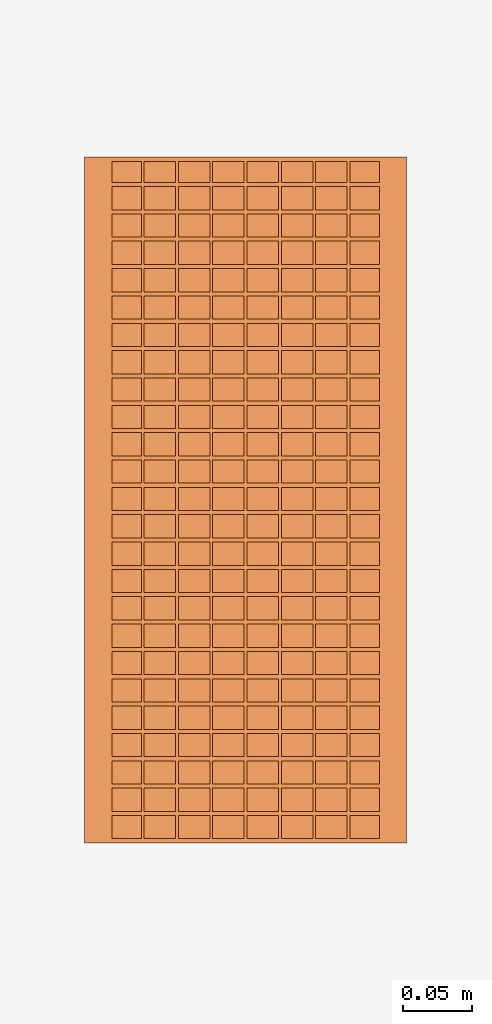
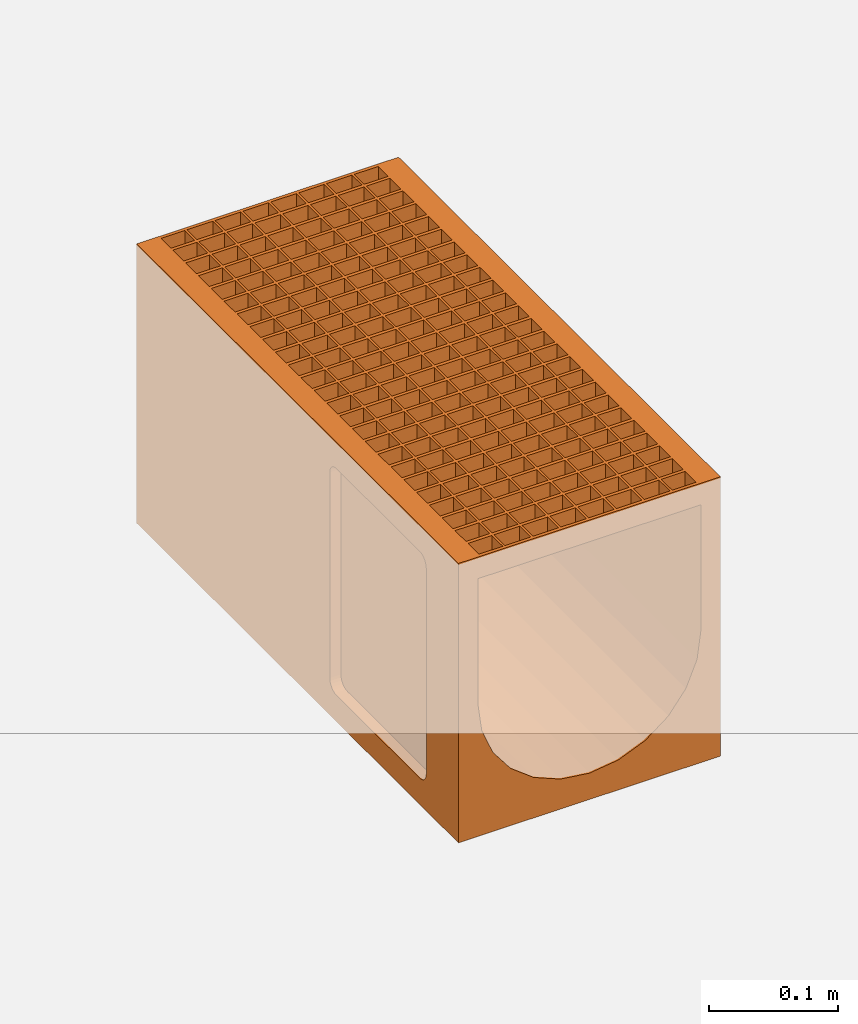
# One storey, part 2 of 2: 1 proxy.
"""IFC2X3 building model written with IfcOpenShell, lengths in millimetres."""

from ifc_helpers import new_model, entity, si_unit, converted_unit, direction, frame, origin, place, context, subcontext, project, spatial, faceted_brep, source, transform, mapped, material, material_list, element, save


model = new_model("IFC2X3")

# Units and contexts
model_context = context("Model", 3, precision=1e-06, world=origin(), true_north=direction((2.0, 6.12303176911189e-17, 1.0)))
context_of_model = context(None, 3, precision=1e-06, world=origin(), true_north=direction((2.0, 6.12303176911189e-17, 1.0)))
body_context = subcontext(model_context, "Body", "Model", "MODEL_VIEW")
ifc_project = project(units=[si_unit("LENGTHUNIT", "METRE", prefix="MILLI"), si_unit("AREAUNIT", "SQUARE_METRE", prefix="MILLI"), si_unit("VOLUMEUNIT", "CUBIC_METRE", prefix="MILLI"), converted_unit("PLANEANGLEUNIT", "DEGREE", entity("IfcRatioMeasure", 0.0174532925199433), si_unit("PLANEANGLEUNIT", "RADIAN"), dimensions=[0, 0, 0, 0, 0, 0, 0]), si_unit("TIMEUNIT", "SECOND")], contexts=[model_context, context_of_model])

# Site, building, storey
site_placement = place(None, origin())
site = spatial("IfcSite", under=ifc_project, at=site_placement, Name="Default", CompositionType="ELEMENT")
building_placement = place(site_placement, origin())
building = spatial("IfcBuilding", under=site, at=building_placement, CompositionType="ELEMENT")
storey_placement = place(building_placement, origin())
storey = spatial("IfcBuildingStorey", under=building, at=storey_placement, Name="Level 1", CompositionType="ELEMENT", Elevation=0.0)

# Proxy
ifc_material = material(Name="Vienite® Synthetic Resin Concrete")
ifc_material_list = material_list([ifc_material])
shared_shape = source(origin(), body_context, "Body", "Brep", [
    faceted_brep([(-97.5000000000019, 497.0, 0.0), (97.4999999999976, 497.0, 0.0), (97.4999999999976, 500.0, 0.0), (-97.5000000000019, 500.0, 0.0), (-97.5000000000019, 500.0, -20.5000000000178), (97.4999999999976, 500.0, -20.5000000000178), (97.4999999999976, 497.0, -20.5000000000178), (-97.5000000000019, 497.0, -20.5000000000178)], [[[0, 1, 2, 3]], [[4, 5, 6, 7]], [[2, 1, 6, 5]], [[4, 3, 2, 5]], [[0, 3, 4, 7]], [[6, 1, 0, 7]]]),
    faceted_brep([(-97.5000000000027, 3.0, -20.5000000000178), (97.4999999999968, 3.0, -20.5000000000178), (97.4999999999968, 0.0, -20.5000000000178), (-97.5000000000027, 0.0, -20.5000000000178), (-97.5000000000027, 0.0, 0.0), (97.4999999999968, 0.0, 0.0), (97.4999999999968, 3.0, 0.0), (-97.5000000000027, 3.0, 0.0)], [[[0, 1, 2, 3]], [[4, 5, 6, 7]], [[6, 5, 2, 1]], [[3, 4, 7, 0]], [[2, 5, 4, 3]], [[0, 7, 6, 1]]]),
    faceted_brep([(-97.5000000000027, 19.9400000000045, 0.0), (97.4999999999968, 19.9400000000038, 0.0), (97.4999999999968, 22.9400000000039, 0.0), (-97.5000000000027, 22.9400000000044, 0.0), (-97.5000000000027, 22.9400000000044, -20.5000000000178), (97.4999999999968, 22.9400000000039, -20.5000000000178), (97.4999999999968, 19.9400000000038, -20.5000000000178), (-97.5000000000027, 19.9400000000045, -20.5000000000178)], [[[0, 1, 2, 3]], [[4, 5, 6, 7]], [[2, 1, 6, 5]], [[4, 3, 2, 5]], [[7, 0, 3, 4]], [[6, 1, 0, 7]]]),
    faceted_brep([(-97.5000000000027, 42.8800000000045, -20.5000000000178), (97.4999999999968, 42.8800000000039, -20.5000000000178), (97.4999999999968, 39.8800000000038, -20.5000000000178), (-97.5000000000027, 39.8800000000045, -20.5000000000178), (-97.5000000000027, 39.8800000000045, 0.0), (97.4999999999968, 39.8800000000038, 0.0), (97.4999999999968, 42.8800000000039, 0.0), (-97.5000000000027, 42.8800000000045, 0.0)], [[[0, 1, 2, 3]], [[4, 5, 6, 7]], [[6, 5, 2, 1]], [[0, 7, 6, 1]], [[3, 4, 7, 0]], [[2, 5, 4, 3]]]),
    faceted_brep([(-97.5000000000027, 59.8200000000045, 0.0), (97.4999999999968, 59.8200000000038, 0.0), (97.4999999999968, 62.8200000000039, 0.0), (-97.5000000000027, 62.8200000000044, 0.0), (-97.5000000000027, 62.8200000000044, -20.5000000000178), (97.4999999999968, 62.8200000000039, -20.5000000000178), (97.4999999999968, 59.8200000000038, -20.5000000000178), (-97.5000000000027, 59.8200000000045, -20.5000000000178)], [[[0, 1, 2, 3]], [[4, 5, 6, 7]], [[2, 1, 6, 5]], [[4, 3, 2, 5]], [[7, 0, 3, 4]], [[6, 1, 0, 7]]]),
    faceted_brep([(-97.5000000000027, 79.7600000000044, -20.5000000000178), (-97.5000000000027, 82.7600000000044, -20.5000000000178), (97.4999999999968, 82.7600000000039, -20.5000000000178), (97.4999999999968, 79.7600000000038, -20.5000000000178), (-97.5000000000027, 79.7600000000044, 0.0), (97.4999999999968, 79.7600000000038, 0.0), (97.4999999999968, 82.7600000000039, 0.0), (-97.5000000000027, 82.7600000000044, 0.0)], [[[0, 1, 2, 3]], [[4, 5, 6, 7]], [[6, 5, 3, 2]], [[1, 7, 6, 2]], [[4, 7, 1, 0]], [[3, 5, 4, 0]]]),
    faceted_brep([(-97.5000000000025, 99.7000000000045, 0.0), (97.4999999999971, 99.7000000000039, 0.0), (97.4999999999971, 102.700000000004, 0.0), (-97.5000000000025, 102.700000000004, 0.0), (-97.5000000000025, 99.7000000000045, -20.5000000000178), (-97.5000000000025, 102.700000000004, -20.5000000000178), (97.4999999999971, 102.700000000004, -20.5000000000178), (97.4999999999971, 99.7000000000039, -20.5000000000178)], [[[0, 1, 2, 3]], [[4, 5, 6, 7]], [[2, 1, 7, 6]], [[5, 3, 2, 6]], [[0, 3, 5, 4]], [[7, 1, 0, 4]]]),
    faceted_brep([(-97.5000000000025, 119.640000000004, 0.0), (97.4999999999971, 119.640000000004, 0.0), (97.4999999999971, 122.640000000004, 0.0), (-97.5000000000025, 122.640000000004, 0.0), (-97.5000000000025, 119.640000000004, -20.5000000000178), (-97.5000000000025, 122.640000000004, -20.5000000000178), (97.4999999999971, 122.640000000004, -20.5000000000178), (97.4999999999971, 119.640000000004, -20.5000000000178)], [[[0, 1, 2, 3]], [[4, 5, 6, 7]], [[2, 1, 7, 6]], [[5, 3, 2, 6]], [[0, 3, 5, 4]], [[7, 1, 0, 4]]]),
    faceted_brep([(-97.5000000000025, 139.580000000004, -20.5000000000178), (-97.5000000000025, 142.580000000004, -20.5000000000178), (97.4999999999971, 142.580000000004, -20.5000000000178), (97.4999999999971, 139.580000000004, -20.5000000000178), (-97.5000000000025, 139.580000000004, 0.0), (97.4999999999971, 139.580000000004, 0.0), (97.4999999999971, 142.580000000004, 0.0), (-97.5000000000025, 142.580000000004, 0.0)], [[[0, 1, 2, 3]], [[4, 5, 6, 7]], [[6, 5, 3, 2]], [[1, 7, 6, 2]], [[4, 7, 1, 0]], [[3, 5, 4, 0]]]),
    faceted_brep([(-97.5000000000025, 159.520000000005, 0.0), (97.4999999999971, 159.520000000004, 0.0), (97.4999999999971, 162.520000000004, 0.0), (-97.5000000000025, 162.520000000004, 0.0), (-97.5000000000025, 159.520000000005, -20.5000000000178), (-97.5000000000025, 162.520000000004, -20.5000000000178), (97.4999999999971, 162.520000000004, -20.5000000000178), (97.4999999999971, 159.520000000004, -20.5000000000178)], [[[0, 1, 2, 3]], [[4, 5, 6, 7]], [[6, 2, 1, 7]], [[5, 3, 2, 6]], [[0, 3, 5, 4]], [[7, 1, 0, 4]]]),
    faceted_brep([(-97.5000000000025, 179.460000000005, 0.0), (97.4999999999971, 179.460000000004, 0.0), (97.4999999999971, 182.460000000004, 0.0), (-97.5000000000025, 182.460000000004, 0.0), (-97.5000000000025, 179.460000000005, -20.5000000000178), (-97.5000000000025, 182.460000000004, -20.5000000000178), (97.4999999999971, 182.460000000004, -20.5000000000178), (97.4999999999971, 179.460000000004, -20.5000000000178)], [[[0, 1, 2, 3]], [[4, 5, 6, 7]], [[6, 2, 1, 7]], [[5, 3, 2, 6]], [[0, 3, 5, 4]], [[7, 1, 0, 4]]]),
    faceted_brep([(-97.5000000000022, 199.400000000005, -20.5000000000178), (-97.5000000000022, 202.400000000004, -20.5000000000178), (97.4999999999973, 202.400000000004, -20.5000000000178), (97.4999999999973, 199.400000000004, -20.5000000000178), (-97.5000000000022, 199.400000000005, 0.0), (97.4999999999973, 199.400000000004, 0.0), (97.4999999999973, 202.400000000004, 0.0), (-97.5000000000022, 202.400000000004, 0.0)], [[[0, 1, 2, 3]], [[4, 5, 6, 7]], [[2, 6, 5, 3]], [[1, 7, 6, 2]], [[4, 7, 1, 0]], [[3, 5, 4, 0]]]),
    faceted_brep([(-97.5000000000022, 219.340000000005, -20.5000000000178), (-97.5000000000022, 222.340000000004, -20.5000000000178), (97.4999999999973, 222.340000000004, -20.5000000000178), (97.4999999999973, 219.340000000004, -20.5000000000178), (-97.5000000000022, 219.340000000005, 0.0), (97.4999999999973, 219.340000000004, 0.0), (97.4999999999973, 222.340000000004, 0.0), (-97.5000000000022, 222.340000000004, 0.0)], [[[0, 1, 2, 3]], [[4, 5, 6, 7]], [[2, 6, 5, 3]], [[1, 7, 6, 2]], [[4, 7, 1, 0]], [[3, 5, 4, 0]]]),
    faceted_brep([(-97.5000000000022, 239.280000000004, -20.5000000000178), (-97.5000000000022, 242.280000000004, -20.5000000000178), (97.4999999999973, 242.280000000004, -20.5000000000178), (97.4999999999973, 239.280000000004, -20.5000000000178), (-97.5000000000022, 239.280000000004, 0.0), (97.4999999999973, 239.280000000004, 0.0), (97.4999999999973, 242.280000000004, 0.0), (-97.5000000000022, 242.280000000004, 0.0)], [[[0, 1, 2, 3]], [[4, 5, 6, 7]], [[2, 6, 5, 3]], [[1, 7, 6, 2]], [[4, 7, 1, 0]], [[3, 5, 4, 0]]]),
    faceted_brep([(-97.5000000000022, 259.220000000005, -20.5000000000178), (-97.5000000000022, 262.220000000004, -20.5000000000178), (97.4999999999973, 262.220000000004, -20.5000000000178), (97.4999999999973, 259.220000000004, -20.5000000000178), (-97.5000000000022, 259.220000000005, 0.0), (97.4999999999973, 259.220000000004, 0.0), (97.4999999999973, 262.220000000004, 0.0), (-97.5000000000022, 262.220000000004, 0.0)], [[[0, 1, 2, 3]], [[4, 5, 6, 7]], [[2, 6, 5, 3]], [[1, 7, 6, 2]], [[4, 7, 1, 0]], [[3, 5, 4, 0]]]),
    faceted_brep([(-97.5000000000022, 279.160000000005, -20.5000000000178), (-97.5000000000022, 282.160000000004, -20.5000000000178), (97.4999999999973, 282.160000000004, -20.5000000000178), (97.4999999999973, 279.160000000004, -20.5000000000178), (-97.5000000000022, 279.160000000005, 0.0), (97.4999999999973, 279.160000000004, 0.0), (97.4999999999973, 282.160000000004, 0.0), (-97.5000000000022, 282.160000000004, 0.0)], [[[0, 1, 2, 3]], [[4, 5, 6, 7]], [[2, 6, 5, 3]], [[1, 7, 6, 2]], [[4, 7, 1, 0]], [[3, 5, 4, 0]]]),
    faceted_brep([(-97.5000000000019, 299.100000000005, -20.5000000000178), (-97.5000000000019, 302.100000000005, -20.5000000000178), (97.4999999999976, 302.100000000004, -20.5000000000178), (97.4999999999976, 299.100000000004, -20.5000000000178), (-97.5000000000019, 299.100000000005, 0.0), (97.4999999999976, 299.100000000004, 0.0), (97.4999999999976, 302.100000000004, 0.0), (-97.5000000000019, 302.100000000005, 0.0)], [[[0, 1, 2, 3]], [[4, 5, 6, 7]], [[2, 6, 5, 3]], [[1, 7, 6, 2]], [[4, 7, 1, 0]], [[3, 5, 4, 0]]]),
    faceted_brep([(-97.5000000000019, 322.040000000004, -20.5000000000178), (97.4999999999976, 322.040000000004, -20.5000000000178), (97.4999999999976, 319.040000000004, -20.5000000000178), (-97.5000000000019, 319.040000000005, -20.5000000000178), (-97.5000000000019, 319.040000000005, 0.0), (97.4999999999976, 319.040000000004, 0.0), (97.4999999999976, 322.040000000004, 0.0), (-97.5000000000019, 322.040000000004, 0.0)], [[[0, 1, 2, 3]], [[4, 5, 6, 7]], [[6, 5, 2, 1]], [[0, 7, 6, 1]], [[4, 7, 0, 3]], [[2, 5, 4, 3]]]),
    faceted_brep([(-97.5000000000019, 338.980000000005, 0.0), (97.4999999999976, 338.980000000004, 0.0), (97.4999999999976, 341.980000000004, 0.0), (-97.5000000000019, 341.980000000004, 0.0), (-97.5000000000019, 341.980000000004, -20.5000000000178), (97.4999999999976, 341.980000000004, -20.5000000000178), (97.4999999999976, 338.980000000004, -20.5000000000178), (-97.5000000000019, 338.980000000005, -20.5000000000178)], [[[0, 1, 2, 3]], [[4, 5, 6, 7]], [[2, 1, 6, 5]], [[4, 3, 2, 5]], [[0, 3, 4, 7]], [[6, 1, 0, 7]]]),
    faceted_brep([(-97.5000000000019, 358.920000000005, 0.0), (97.4999999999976, 358.920000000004, 0.0), (97.4999999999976, 361.920000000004, 0.0), (-97.5000000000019, 361.920000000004, 0.0), (-97.5000000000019, 361.920000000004, -20.5000000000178), (97.4999999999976, 361.920000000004, -20.5000000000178), (97.4999999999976, 358.920000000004, -20.5000000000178), (-97.5000000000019, 358.920000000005, -20.5000000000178)], [[[0, 1, 2, 3]], [[4, 5, 6, 7]], [[2, 1, 6, 5]], [[4, 3, 2, 5]], [[0, 3, 4, 7]], [[6, 1, 0, 7]]]),
    faceted_brep([(-97.5000000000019, 381.860000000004, -20.5000000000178), (97.4999999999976, 381.860000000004, -20.5000000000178), (97.4999999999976, 378.860000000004, -20.5000000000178), (-97.5000000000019, 378.860000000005, -20.5000000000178), (-97.5000000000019, 378.860000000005, 0.0), (97.4999999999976, 378.860000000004, 0.0), (97.4999999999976, 381.860000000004, 0.0), (-97.5000000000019, 381.860000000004, 0.0)], [[[0, 1, 2, 3]], [[4, 5, 6, 7]], [[6, 5, 2, 1]], [[0, 7, 6, 1]], [[4, 7, 0, 3]], [[2, 5, 4, 3]]]),
    faceted_brep([(-97.5000000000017, 401.800000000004, -20.5000000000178), (97.4999999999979, 401.800000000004, -20.5000000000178), (97.4999999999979, 398.800000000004, -20.5000000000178), (-97.5000000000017, 398.800000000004, -20.5000000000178), (-97.5000000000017, 398.800000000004, 0.0), (97.4999999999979, 398.800000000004, 0.0), (97.4999999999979, 401.800000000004, 0.0), (-97.5000000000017, 401.800000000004, 0.0)], [[[0, 1, 2, 3]], [[4, 5, 6, 7]], [[6, 5, 2, 1]], [[0, 7, 6, 1]], [[4, 7, 0, 3]], [[2, 5, 4, 3]]]),
    faceted_brep([(-97.5000000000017, 421.740000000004, -20.5000000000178), (97.4999999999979, 421.740000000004, -20.5000000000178), (97.4999999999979, 418.740000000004, -20.5000000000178), (-97.5000000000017, 418.740000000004, -20.5000000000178), (-97.5000000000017, 418.740000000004, 0.0), (97.4999999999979, 418.740000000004, 0.0), (97.4999999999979, 421.740000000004, 0.0), (-97.5000000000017, 421.740000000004, 0.0)], [[[0, 1, 2, 3]], [[4, 5, 6, 7]], [[6, 5, 2, 1]], [[0, 7, 6, 1]], [[4, 7, 0, 3]], [[2, 5, 4, 3]]]),
    faceted_brep([(-97.5000000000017, 441.680000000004, -20.5000000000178), (97.4999999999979, 441.680000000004, -20.5000000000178), (97.4999999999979, 438.680000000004, -20.5000000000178), (-97.5000000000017, 438.680000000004, -20.5000000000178), (-97.5000000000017, 438.680000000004, 0.0), (97.4999999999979, 438.680000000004, 0.0), (97.4999999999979, 441.680000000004, 0.0), (-97.5000000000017, 441.680000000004, 0.0)], [[[0, 1, 2, 3]], [[4, 5, 6, 7]], [[6, 5, 2, 1]], [[0, 7, 6, 1]], [[4, 7, 0, 3]], [[2, 5, 4, 3]]]),
    faceted_brep([(-97.5000000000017, 461.620000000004, -20.5000000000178), (97.4999999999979, 461.620000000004, -20.5000000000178), (97.4999999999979, 458.620000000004, -20.5000000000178), (-97.5000000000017, 458.620000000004, -20.5000000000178), (-97.5000000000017, 458.620000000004, 0.0), (97.4999999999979, 458.620000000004, 0.0), (97.4999999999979, 461.620000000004, 0.0), (-97.5000000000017, 461.620000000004, 0.0)], [[[0, 1, 2, 3]], [[4, 5, 6, 7]], [[6, 5, 2, 1]], [[0, 7, 6, 1]], [[4, 7, 0, 3]], [[2, 5, 4, 3]]]),
    faceted_brep([(-97.5000000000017, 481.560000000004, -20.5000000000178), (97.4999999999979, 481.560000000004, -20.5000000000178), (97.4999999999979, 478.560000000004, -20.5000000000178), (-97.5000000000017, 478.560000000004, -20.5000000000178), (-97.5000000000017, 478.560000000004, 0.0), (97.4999999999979, 478.560000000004, 0.0), (97.4999999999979, 481.560000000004, 0.0), (-97.5000000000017, 481.560000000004, 0.0)], [[[0, 1, 2, 3]], [[4, 5, 6, 7]], [[6, 5, 2, 1]], [[0, 7, 6, 1]], [[4, 7, 0, 3]], [[2, 5, 4, 3]]]),
    faceted_brep([(97.4999999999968, 0.0, 0.0), (97.4999999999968, 0.0, -20.5000000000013), (113.249999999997, 0.0, -20.5000000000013), (113.249999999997, 0.0, 0.0), (97.4999999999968, 500.0, 0.0), (113.249999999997, 500.0, 0.0), (113.249999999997, 500.0, -20.5000000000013), (97.4999999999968, 500.0, -20.5000000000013)], [[[0, 1, 2, 3]], [[4, 5, 6, 7]], [[7, 1, 0, 4]], [[2, 1, 7, 6]], [[5, 3, 2, 6]], [[0, 3, 5, 4]]]),
    faceted_brep([(-97.5000000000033, 500.0, 0.0), (-97.5000000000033, 500.0, -20.5000000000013), (-113.250000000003, 500.0, -20.5000000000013), (-113.250000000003, 500.0, 0.0), (-97.5000000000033, 0.0, 0.0), (-113.250000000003, 0.0, 0.0), (-113.250000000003, 0.0, -20.5000000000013), (-97.5000000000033, 0.0, -20.5000000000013)], [[[0, 1, 2, 3]], [[4, 5, 6, 7]], [[5, 4, 0, 3]], [[2, 6, 5, 3]], [[7, 6, 2, 1]], [[0, 4, 7, 1]]]),
    faceted_brep([(-49.0, 0.0, 0.0), (-51.0, 0.0, 0.0), (-51.0, 0.0, -20.5000000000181), (-49.0, 0.0, -20.5000000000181), (-49.0, 500.0, 0.0), (-49.0, 500.0, -20.5000000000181), (-51.0, 500.0, -20.5000000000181), (-51.0, 500.0, 0.0)], [[[0, 1, 2, 3]], [[4, 5, 6, 7]], [[5, 3, 2, 6]], [[4, 0, 3, 5]], [[7, 1, 0, 4]], [[6, 2, 1, 7]]]),
    faceted_brep([(51.0, 0.0, 0.0), (49.0, 0.0, 0.0), (49.0, 0.0, -20.5000000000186), (51.0, 0.0, -20.5000000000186), (51.0, 500.0, 0.0), (51.0, 500.0, -20.5000000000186), (49.0, 500.0, -20.5000000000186), (49.0, 500.0, 0.0)], [[[0, 1, 2, 3]], [[4, 5, 6, 7]], [[0, 3, 5, 4]], [[7, 1, 0, 4]], [[2, 1, 7, 6]], [[5, 3, 2, 6]]]),
    faceted_brep([(-24.0, 500.0, 0.0), (-24.0, 500.0, -20.5000000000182), (-26.0, 500.0, -20.5000000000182), (-26.0, 500.0, 0.0), (-24.0, 0.0, 0.0), (-26.0, 0.0, 0.0), (-26.0, 0.0, -20.5000000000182), (-24.0, 0.0, -20.5000000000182)], [[[0, 1, 2, 3]], [[4, 5, 6, 7]], [[1, 7, 6, 2]], [[0, 4, 7, 1]], [[3, 5, 4, 0]], [[2, 6, 5, 3]]]),
    faceted_brep([(1.0, 500.0, 0.0), (1.0, 500.0, -20.5000000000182), (-1.0, 500.0, -20.5000000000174), (-1.0, 500.0, 0.0), (1.0, 0.0, 0.0), (-1.0, 0.0, 0.0), (-1.0, 0.0, -20.5000000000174), (1.0, 0.0, -20.5000000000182)], [[[0, 1, 2, 3]], [[4, 5, 6, 7]], [[1, 7, 6, 2]], [[4, 7, 1, 0]], [[3, 5, 4, 0]], [[2, 6, 5, 3]]]),
    faceted_brep([(26.0, 500.0, 0.0), (26.0, 500.0, -20.5000000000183), (24.0, 500.0, -20.5000000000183), (24.0, 500.0, 0.0), (26.0, 0.0, 0.0), (24.0, 0.0, 0.0), (24.0, 0.0, -20.5000000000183), (26.0, 0.0, -20.5000000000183)], [[[0, 1, 2, 3]], [[4, 5, 6, 7]], [[1, 7, 6, 2]], [[0, 4, 7, 1]], [[3, 5, 4, 0]], [[2, 6, 5, 3]]]),
    faceted_brep([(-74.0, 500.0, 0.0), (-74.0, 500.0, -20.5000000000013), (-76.0, 500.0, -20.5000000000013), (-76.0, 500.0, 0.0), (-74.0, 0.0, 0.0), (-76.0, 0.0, 0.0), (-76.0, 0.0, -20.5000000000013), (-74.0, 0.0, -20.5000000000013)], [[[0, 1, 2, 3]], [[4, 5, 6, 7]], [[1, 7, 6, 2]], [[4, 7, 1, 0]], [[3, 5, 4, 0]], [[2, 6, 5, 3]]]),
    faceted_brep([(76.0, 0.0, 0.0), (74.0, 0.0, 0.0), (74.0, 0.0, -20.5000000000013), (76.0, 0.0, -20.5000000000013), (76.0, 500.0, 0.0), (76.0, 500.0, -20.5000000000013), (74.0, 500.0, -20.5000000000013), (74.0, 500.0, 0.0)], [[[0, 1, 2, 3]], [[4, 5, 6, 7]], [[0, 3, 5, 4]], [[7, 1, 0, 4]], [[6, 2, 1, 7]], [[5, 3, 2, 6]]]),
    faceted_brep([(107.5, 55.0, -238.660254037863), (107.5, 57.4118095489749, -239.659258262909), (107.5, 60.0, -240.0), (107.5, 51.3397459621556, -235.0), (107.5, 50.0, -230.0), (107.5, 50.3407417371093, -232.588190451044), (107.5, 52.9289321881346, -237.071067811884), (107.5, 200.0, -230.0), (107.5, 190.0, -240.0), (107.5, 192.588190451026, -239.659258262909), (107.5, 195.0, -238.660254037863), (107.5, 197.071067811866, -237.071067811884), (107.5, 198.660254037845, -235.0), (107.5, 199.659258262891, -232.588190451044), (107.5, 200.0, -35.0), (107.5, 50.0, -35.0), (107.5, 50.3407417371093, -32.411809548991), (107.5, 52.9289321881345, -27.9289321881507), (107.5, 51.3397459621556, -30.0), (107.5, 57.4118095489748, -25.3407417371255), (107.5, 55.0, -26.3397459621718), (107.5, 60.0, -25.0), (107.5, 190.0, -25.0), (107.5, 199.659258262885, -32.4118095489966), (107.5, 198.660254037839, -30.0), (107.5, 195.0, -26.3397459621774), (107.5, 192.58819045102, -25.3407417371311), (107.5, 197.07106781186, -27.9289321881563), (117.5, 50.0, -35.0), (117.5, 50.0, -230.0), (117.5, 60.0, -25.0), (117.5, 190.0, -25.0), (117.5, 200.0, -230.0), (117.5, 200.0, -35.0), (117.5, 190.0, -240.0), (117.5, 60.0, -240.0), (113.25, 500.0, -20.5000000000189), (113.25, 500.0, 0.0), (117.5, 500.0, 0.0), (117.5, 500.0, -265.0), (100.0, 500.0, -140.0), (100.0, 500.0, -20.5000000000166), (-117.5, 500.0, 0.0), (-113.25, 500.0, 0.0), (-113.25, 500.0, -20.5000000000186), (-117.5, 500.0, -265.0), (-100.0, 500.0, -20.5000000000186), (-100.0, 500.0, -140.0), (96.5925826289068, 500.0, -165.881904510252), (70.7106781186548, 500.0, -210.710678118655), (86.6025403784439, 500.0, -190.0), (50.0, 500.0, -226.602540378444), (0.0, 500.0, -240.0), (25.8819045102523, 500.0, -236.592582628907), (-86.6025403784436, 500.0, -190.0), (-70.7106781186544, 500.0, -210.710678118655), (-96.5925826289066, 500.0, -165.881904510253), (-50.0, 500.0, -226.602540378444), (-25.8819045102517, 500.0, -236.592582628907), (117.5, 0.0, -265.0), (25.8819045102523, 0.0, -236.592582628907), (0.0, 0.0, -240.0), (50.0, 0.0, -226.602540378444), (70.7106781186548, 0.0, -210.710678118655), (86.6025403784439, 0.0, -190.0), (96.5925826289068, 0.0, -165.881904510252), (-25.8819045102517, 0.0, -236.592582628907), (-117.5, 0.0, -265.0), (-50.0, 0.0, -226.602540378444), (-70.7106781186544, 0.0, -210.710678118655), (-86.6025403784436, 0.0, -190.0), (-96.5925826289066, 0.0, -165.881904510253), (100.0, 0.0, -140.0), (113.25, 0.0, -20.5000000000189), (100.0, 0.0, -20.5000000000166), (117.5, 0.0, 0.0), (113.25, 0.0, 0.0), (-100.0, 0.0, -140.0), (-100.0, 0.0, -20.5000000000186), (-113.25, 0.0, -20.5000000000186), (-113.25, 0.0, 0.0), (-117.5, 0.0, 0.0), (-117.5, 51.3397459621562, -30.0), (-117.5, 50.3407417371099, -32.4118095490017), (-117.5, 52.9289321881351, -27.9289321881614), (-117.5, 50.0, -35.0), (-117.5, 50.0, -230.0), (-117.5, 60.0, -25.0), (-117.5, 57.4118095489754, -25.3407417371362), (-117.5, 55.0, -26.3397459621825), (-117.5, 190.0, -25.0), (-117.5, 50.3407417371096, -232.588190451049), (-117.5, 51.3397459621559, -235.0), (-117.5, 52.9289321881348, -237.07106781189), (-117.5, 55.0, -238.660254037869), (-117.5, 57.411809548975, -239.659258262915), (-117.5, 60.0, -240.0), (-117.5, 190.0, -240.0), (-117.5, 192.588190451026, -25.340741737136), (-117.5, 197.071067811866, -27.9289321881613), (-117.5, 195.0, -26.3397459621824), (-117.5, 198.660254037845, -30.0), (-117.5, 199.659258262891, -32.4118095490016), (-117.5, 200.0, -35.0), (-117.5, 195.0, -238.660254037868), (-117.5, 197.071067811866, -237.07106781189), (-117.5, 192.588190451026, -239.659258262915), (-117.5, 199.659258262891, -232.588190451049), (-117.5, 200.0, -230.0), (-117.5, 198.660254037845, -235.0), (-20.7055236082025, 47.7259338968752, -265.0), (0.0, 45.0, -265.0), (-40.0, 55.7179676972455, -265.0), (-77.2740661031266, 104.294476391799, -265.0), (-69.2820323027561, 85.0, -265.0), (-56.5685424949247, 68.4314575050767, -265.0), (-80.0, 125.0, -265.0), (20.7055236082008, 47.7259338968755, -265.0), (40.0, 55.7179676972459, -265.0), (56.5685424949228, 68.4314575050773, -265.0), (69.282032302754, 85.0, -265.0), (77.2740661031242, 104.294476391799, -265.0), (80.0, 125.0, -265.0), (77.2740661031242, 145.705523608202, -265.0), (-77.2740661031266, 145.705523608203, -265.0), (-69.2820323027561, 165.0, -265.0), (-56.5685424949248, 181.568542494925, -265.0), (-40.0, 194.282032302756, -265.0), (-20.7055236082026, 202.274066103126, -265.0), (0.0, 205.0, -265.0), (69.282032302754, 165.0, -265.0), (56.5685424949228, 181.568542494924, -265.0), (20.7055236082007, 202.274066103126, -265.0), (40.0, 194.282032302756, -265.0), (117.5, 51.3397459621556, -235.0), (117.5, 50.3407417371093, -232.588190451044), (117.5, 52.9289321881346, -237.071067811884), (117.5, 57.4118095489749, -239.659258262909), (117.5, 55.0, -238.660254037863), (117.5, 50.3407417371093, -32.411809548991), (117.5, 51.3397459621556, -30.0), (117.5, 52.9289321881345, -27.9289321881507), (117.5, 55.0, -26.3397459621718), (117.5, 57.4118095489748, -25.3407417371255), (117.5, 192.588190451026, -239.659258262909), (117.5, 197.071067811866, -237.071067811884), (117.5, 195.0, -238.660254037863), (117.5, 198.660254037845, -235.0), (117.5, 199.659258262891, -232.588190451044), (117.5, 195.0, -26.3397459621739), (117.5, 197.071067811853, -27.9289321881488), (117.5, 192.588190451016, -25.3407417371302), (117.5, 199.659258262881, -32.4118095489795), (117.5, 198.660254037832, -30.0), (-107.5, 198.660254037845, -30.0), (-107.5, 199.659258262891, -32.4118095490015), (-107.5, 200.0, -35.0), (-107.5, 192.588190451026, -25.340741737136), (-107.5, 190.0, -25.0), (-107.5, 60.0, -25.0), (-107.5, 195.0, -26.3397459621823), (-107.5, 197.071067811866, -27.9289321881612), (-107.5, 200.0, -230.0), (-107.5, 50.0, -230.0), (-107.5, 50.0, -35.0), (-107.5, 199.659258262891, -232.588190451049), (-107.5, 198.660254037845, -235.0), (-107.5, 195.0, -238.660254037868), (-107.5, 197.071067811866, -237.07106781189), (-107.5, 192.588190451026, -239.659258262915), (-107.5, 190.0, -240.0), (-107.5, 60.0, -240.0), (-107.5, 57.4118095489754, -25.3407417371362), (-107.5, 52.9289321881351, -27.9289321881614), (-107.5, 55.0, -26.3397459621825), (-107.5, 51.3397459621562, -30.0), (-107.5, 50.3407417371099, -32.4118095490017), (-107.5, 57.4118095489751, -239.659258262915), (-107.5, 55.0, -238.660254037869), (-107.5, 51.3397459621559, -235.0), (-107.5, 50.3407417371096, -232.588190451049), (-107.5, 52.9289321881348, -237.07106781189), (-56.5685424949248, 181.568542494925, -255.0), (-40.0, 194.282032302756, -255.0), (-20.7055236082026, 202.274066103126, -255.0), (40.0, 194.282032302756, -255.0), (80.0, 125.0, -255.0), (-80.0, 125.0, -255.0), (-77.2740661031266, 145.705523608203, -255.0), (-69.2820323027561, 165.0, -255.0), (0.0, 205.0, -255.0), (20.7055236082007, 202.274066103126, -255.0), (56.5685424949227, 181.568542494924, -255.0), (69.282032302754, 165.0, -255.0), (77.2740661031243, 145.705523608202, -255.0), (-77.2740661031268, 104.294476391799, -255.0), (-56.5685424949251, 68.4314575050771, -255.0), (-69.2820323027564, 85.0, -255.0), (77.2740661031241, 104.294476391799, -255.0), (-40.0, 55.7179676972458, -255.0), (0.0, 45.0, -255.0), (-20.705523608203, 47.7259338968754, -255.0), (56.5685424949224, 68.4314575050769, -255.0), (69.2820323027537, 85.0, -255.0), (40.0, 55.7179676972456, -255.0), (20.7055236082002, 47.7259338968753, -255.0)], [[[0, 1, 2, 3]], [[2, 4, 5, 3]], [[3, 6, 0]], [[7, 4, 2, 8]], [[8, 9, 10, 7]], [[11, 12, 13, 10]], [[13, 7, 10]], [[4, 7, 14, 15]], [[16, 15, 17, 18]], [[19, 20, 17, 21]], [[21, 17, 15, 22]], [[14, 23, 24, 22]], [[25, 26, 22, 24]], [[25, 24, 27]], [[22, 15, 14]], [[4, 15, 28, 29]], [[30, 21, 22, 31]], [[14, 7, 32, 33]], [[34, 8, 2, 35]], [[36, 37, 38, 39]], [[40, 41, 36, 39]], [[42, 43, 44, 45]], [[44, 46, 47, 45]], [[40, 39, 48]], [[49, 50, 39]], [[51, 49, 39]], [[52, 53, 39, 45]], [[39, 53, 51]], [[50, 48, 39]], [[54, 55, 45]], [[56, 54, 45]], [[57, 58, 45]], [[45, 58, 52]], [[57, 45, 55]], [[56, 45, 47]], [[59, 60, 61]], [[60, 59, 62]], [[63, 62, 59]], [[64, 63, 59]], [[59, 65, 64]], [[61, 66, 67, 59]], [[67, 66, 68]], [[69, 70, 67]], [[68, 69, 67]], [[67, 70, 71]], [[72, 65, 59]], [[73, 74, 72, 59]], [[75, 76, 73, 59]], [[77, 78, 79, 67]], [[71, 77, 67]], [[79, 80, 81, 67]], [[80, 79, 44, 43]], [[81, 80, 43, 42]], [[81, 82, 83]], [[82, 81, 84]], [[81, 83, 85, 86]], [[87, 88, 81]], [[89, 84, 81]], [[88, 89, 81]], [[90, 87, 81, 42]], [[86, 91, 67, 81]], [[67, 92, 93]], [[92, 67, 91]], [[93, 94, 67]], [[95, 96, 67]], [[94, 95, 67]], [[67, 96, 97]], [[98, 90, 42]], [[99, 100, 42]], [[98, 42, 100]], [[101, 42, 102]], [[42, 101, 99]], [[103, 102, 42, 45]], [[104, 105, 45]], [[97, 106, 45, 67]], [[104, 45, 106]], [[45, 107, 108, 103]], [[109, 45, 105]], [[45, 109, 107]], [[67, 110, 111, 59]], [[110, 67, 112]], [[113, 114, 67]], [[115, 112, 67]], [[114, 115, 67]], [[67, 116, 113]], [[59, 117, 118]], [[117, 59, 111]], [[59, 118, 119]], [[119, 120, 59]], [[121, 122, 59]], [[120, 121, 59]], [[59, 122, 123, 39]], [[124, 116, 67, 45]], [[125, 124, 45]], [[126, 45, 127]], [[45, 126, 125]], [[128, 127, 45]], [[129, 128, 45, 39]], [[130, 131, 39]], [[123, 130, 39]], [[132, 129, 39]], [[133, 39, 131]], [[39, 133, 132]], [[59, 134, 135]], [[134, 59, 136]], [[59, 135, 29, 28]], [[35, 137, 59]], [[138, 136, 59]], [[137, 138, 59]], [[34, 35, 59, 39]], [[28, 139, 75, 59]], [[75, 140, 141]], [[140, 75, 139]], [[141, 142, 75]], [[143, 30, 75]], [[142, 143, 75]], [[75, 30, 31]], [[144, 34, 39]], [[145, 146, 39]], [[144, 39, 146]], [[147, 39, 148]], [[39, 147, 145]], [[32, 148, 39, 38]], [[149, 150, 38]], [[31, 151, 38, 75]], [[149, 38, 151]], [[38, 152, 33, 32]], [[153, 38, 150]], [[38, 153, 152]], [[76, 75, 38, 37]], [[73, 76, 37, 36]], [[41, 74, 73, 36]], [[40, 72, 74, 41]], [[46, 78, 77, 47]], [[79, 78, 46, 44]], [[50, 64, 65, 48]], [[48, 65, 72, 40]], [[51, 62, 63, 49]], [[49, 63, 64, 50]], [[53, 60, 62, 51]], [[60, 53, 52, 61]], [[57, 68, 66, 58]], [[55, 69, 68, 57]], [[56, 71, 70, 54]], [[54, 70, 69, 55]], [[47, 77, 71, 56]], [[58, 66, 61, 52]], [[154, 155, 156, 157]], [[158, 157, 156, 159]], [[157, 160, 161, 154]], [[156, 162, 163, 164]], [[162, 165, 166, 167]], [[167, 166, 168]], [[162, 167, 169, 170]], [[162, 170, 171, 163]], [[164, 172, 159, 156]], [[173, 174, 172, 175]], [[176, 175, 172, 164]], [[171, 177, 178, 163]], [[179, 180, 163, 181]], [[178, 181, 163]], [[85, 164, 163, 86]], [[90, 158, 159, 87]], [[108, 162, 156, 103]], [[96, 171, 170, 97]], [[180, 91, 86, 163]], [[179, 92, 91, 180]], [[92, 179, 181, 93]], [[178, 94, 93, 181]], [[177, 95, 94, 178]], [[95, 177, 171, 96]], [[169, 106, 97, 170]], [[167, 104, 106, 169]], [[104, 167, 168, 105]], [[166, 109, 105, 168]], [[165, 107, 109, 166]], [[107, 165, 162, 108]], [[155, 102, 103, 156]], [[154, 101, 102, 155]], [[101, 154, 161, 99]], [[160, 100, 99, 161]], [[157, 98, 100, 160]], [[98, 157, 158, 90]], [[172, 88, 87, 159]], [[174, 89, 88, 172]], [[89, 174, 173, 84]], [[175, 82, 84, 173]], [[176, 83, 82, 175]], [[83, 176, 164, 85]], [[16, 139, 28, 15]], [[18, 140, 139, 16]], [[140, 18, 17, 141]], [[20, 142, 141, 17]], [[19, 143, 142, 20]], [[143, 19, 21, 30]], [[26, 151, 31, 22]], [[25, 149, 151, 26]], [[149, 25, 27, 150]], [[24, 153, 150, 27]], [[23, 152, 153, 24]], [[152, 23, 14, 33]], [[13, 148, 32, 7]], [[12, 147, 148, 13]], [[147, 12, 11, 145]], [[10, 146, 145, 11]], [[9, 144, 146, 10]], [[144, 9, 8, 34]], [[1, 137, 35, 2]], [[0, 138, 137, 1]], [[138, 0, 6, 136]], [[3, 134, 136, 6]], [[5, 135, 134, 3]], [[135, 5, 4, 29]], [[182, 183, 184]], [[184, 185, 186, 182]], [[187, 188, 189, 182]], [[184, 190, 191, 185]], [[192, 193, 194, 185]], [[194, 186, 185]], [[195, 187, 182]], [[196, 197, 195, 182]], [[196, 182, 198, 199]], [[200, 201, 199, 202]], [[198, 203, 202, 199]], [[198, 182, 186]], [[200, 202, 204, 205]], [[194, 123, 122, 186]], [[193, 130, 123, 194]], [[185, 133, 131, 192]], [[192, 131, 130, 193]], [[191, 132, 133, 185]], [[132, 191, 190, 129]], [[184, 128, 129, 190]], [[183, 127, 128, 184]], [[189, 125, 126, 182]], [[182, 126, 127, 183]], [[188, 124, 125, 189]], [[124, 188, 187, 116]], [[195, 113, 116, 187]], [[197, 114, 113, 195]], [[199, 112, 115, 196]], [[196, 115, 114, 197]], [[201, 110, 112, 199]], [[110, 201, 200, 111]], [[205, 117, 111, 200]], [[204, 118, 117, 205]], [[203, 120, 119, 202]], [[202, 119, 118, 204]], [[198, 121, 120, 203]], [[198, 186, 122, 121]]]),
])
proxy_placement = place(storey_placement, frame((109.609296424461, -1747.00003233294, 0.0)))
element("IfcBuildingElementProxy", 1, at=proxy_placement, inside=storey, material=ifc_material_list, Name="Civil-Drainage-Channel-ACO-MultiDrain-M200DS-Channel-System:24213 - No 0.1J Constant Depth Channel - 500mm LG - Invert Depth 240mm:24213 - No 0.1J Constant Depth Channel - 500mm LG - Invert Depth 240mm", ObjectType="24213 - No 0.1J Constant Depth Channel - 500mm LG - Invert Depth 240mm", CompositionType="ELEMENT", context=body_context, shape_type="MappedRepresentation", body=[
    mapped(shared_shape, transform((0.0, 0.0, 0.0), scale=1.0)),
])

save(model, "model.ifc")
